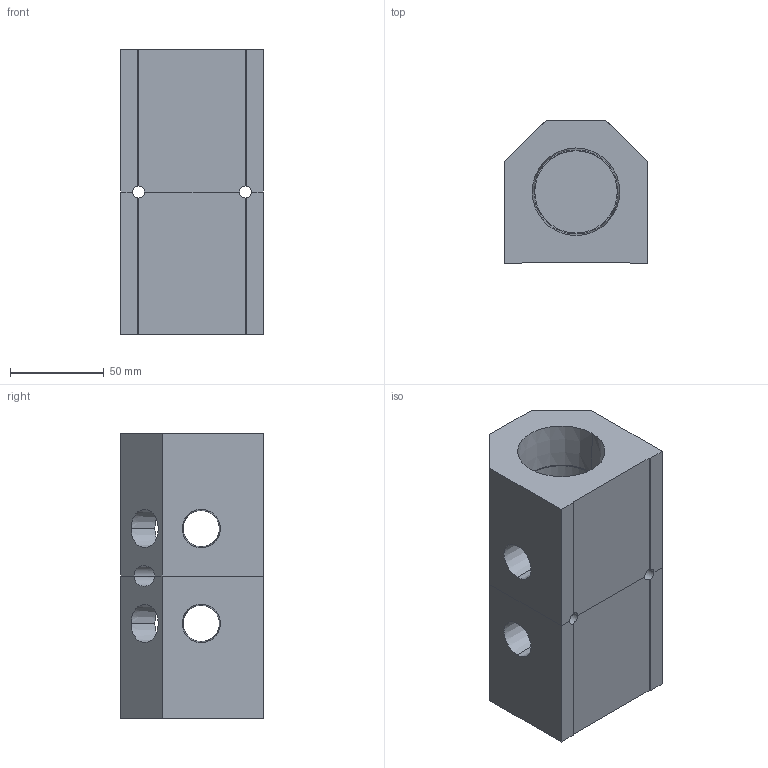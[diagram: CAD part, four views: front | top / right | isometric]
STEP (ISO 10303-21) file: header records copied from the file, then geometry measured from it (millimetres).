
FILE_DESCRIPTION (( 'STEP AP214' ), '1' );
FILE_NAME ('ALM2ABCDE-N8N24-152RB.step', '2022-02-07T09:39:24', ( '' ), ( '' ), 'SwSTEP 2.0', 'SolidWorks 2020', '' );
FILE_SCHEMA (( 'AUTOMOTIVE_DESIGN' ));
Length unit declared in the file: millimetre
Products named in the file (1): ALM2ABCDE-N8N24-152RB
Bounding box: 76.2 x 76.2 x 152 mm (x, y, z)
Volume: 510178.6 mm3; surface area: 89933 mm2
Topology: 2 solids, 2 shells, 371 faces, 1012 edges, 674 vertices
Faces by surface type: plane 254, bspline 75, cone 24, cylinder 18
Entity records: 20711 total; most frequent: CARTESIAN_POINT 8431, ORIENTED_EDGE 2024, DIRECTION 1450, EDGE_CURVE 1012, LINE 744, VECTOR 744, VERTEX_POINT 674, EDGE_LOOP 420
